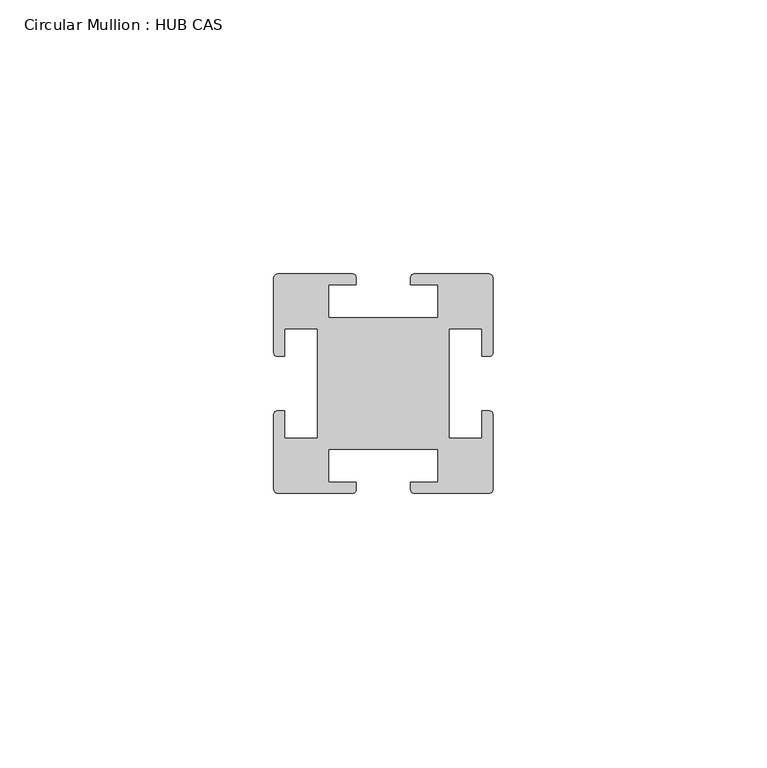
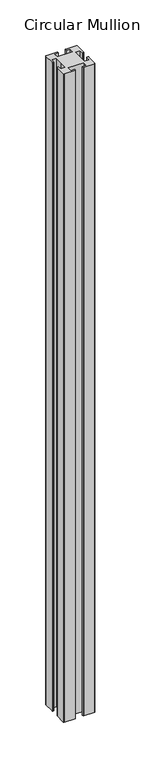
"""IFC4 building model written with IfcOpenShell, lengths in millimetres: member geometry, Circular Mullion : HUB CAS."""

from ifc_helpers import new_model, si_unit, point, frame, frame_2d, origin, place, context, project, spatial, polyline, circle_curve, trimmed, segment, composite_curve, outline, extrude, source, transform, mapped, element, save


def circular_mullion_hub_cas_675684c7(model_context):
    return source(origin(), model_context, "Body", "SweptSolid", [
        extrude(outline(composite_curve([segment(polyline([(5.601076, 2.0892375), (19.298924, 2.0892375)]), True, "CONTINUOUS"), segment(trimmed(circle_curve(frame_2d((19.298924, 1.3892375)), 0.7), [point((19.298924, 2.0892375))], [point((19.998924, 1.3892375))], False, "CARTESIAN"), True, "CONTINUOUS"), segment(polyline([(19.998924, 1.3892375), (19.998924, -12.3107625)]), True, "CONTINUOUS"), segment(trimmed(circle_curve(frame_2d((19.398924, -12.3107625)), 0.6), [point((19.998924, -12.3107625))], [point((19.398924, -12.9107625))], False, "CARTESIAN"), True, "CONTINUOUS"), segment(polyline([(19.398924, -12.9107625), (17.998924, -12.9107625), (17.998924, -7.9107625), (11.998924, -7.9107625), (11.998924, -17.9107625), (11.998924, -27.9107625), (17.998924, -27.9107625), (17.998924, -22.9107625), (19.398924, -22.9107625)]), True, "CONTINUOUS"), segment(trimmed(circle_curve(frame_2d((19.398924, -23.5107625)), 0.6), [point((19.398924, -22.9107625))], [point((19.998924, -23.5107625))], False, "CARTESIAN"), True, "CONTINUOUS"), segment(polyline([(19.998924, -23.5107625), (19.998924, -37.2107625)]), True, "CONTINUOUS"), segment(trimmed(circle_curve(frame_2d((19.298924, -37.2107625)), 0.7), [point((19.998924, -37.2107625))], [point((19.298924, -37.9107625))], False, "CARTESIAN"), True, "CONTINUOUS"), segment(polyline([(19.298924, -37.9107625), (5.601076, -37.9107625)]), True, "CONTINUOUS"), segment(trimmed(circle_curve(frame_2d((5.601076, -37.3107625)), 0.6), [point((5.601076, -37.9107625))], [point((5.001076, -37.3107625))], False, "CARTESIAN"), True, "CONTINUOUS"), segment(polyline([(5.001076, -37.3107625), (5.001076, -35.910257), (9.998924, -35.910257), (9.998924, -29.9107625), (-9.998924, -29.9107625), (-9.998924, -35.910257), (-5.001076, -35.910257), (-5.001076, -37.3107625)]), True, "CONTINUOUS"), segment(trimmed(circle_curve(frame_2d((-5.601076, -37.3107625)), 0.6), [point((-5.001076, -37.3107625))], [point((-5.601076, -37.9107625))], False, "CARTESIAN"), True, "CONTINUOUS"), segment(polyline([(-5.601076, -37.9107625), (-19.298924, -37.9107625)]), True, "CONTINUOUS"), segment(trimmed(circle_curve(frame_2d((-19.298924, -37.2107625)), 0.7), [point((-19.298924, -37.9107625))], [point((-19.998924, -37.2107625))], False, "CARTESIAN"), True, "CONTINUOUS"), segment(polyline([(-19.998924, -37.2107625), (-19.998924, -23.5107625)]), True, "CONTINUOUS"), segment(trimmed(circle_curve(frame_2d((-19.398924, -23.5107625)), 0.6), [point((-19.998924, -23.5107625))], [point((-19.398924, -22.9107625))], False, "CARTESIAN"), True, "CONTINUOUS"), segment(polyline([(-19.398924, -22.9107625), (-17.998924, -22.9107625), (-17.998924, -27.9107625), (-11.998924, -27.9107625), (-11.998924, -17.9107625), (-11.998924, -7.9107625), (-17.998924, -7.9107625), (-17.998924, -12.9107625), (-19.398924, -12.9107625)]), True, "CONTINUOUS"), segment(trimmed(circle_curve(frame_2d((-19.398924, -12.3107625)), 0.6), [point((-19.398924, -12.9107625))], [point((-19.998924, -12.3107625))], False, "CARTESIAN"), True, "CONTINUOUS"), segment(polyline([(-19.998924, -12.3107625), (-19.998924, 1.3892375)]), True, "CONTINUOUS"), segment(trimmed(circle_curve(frame_2d((-19.298924, 1.3892375)), 0.7), [point((-19.998924, 1.3892375))], [point((-19.298924, 2.0892375))], False, "CARTESIAN"), True, "CONTINUOUS"), segment(polyline([(-19.298924, 2.0892375), (-5.601076, 2.0892375)]), True, "CONTINUOUS"), segment(trimmed(circle_curve(frame_2d((-5.601076, 1.4892375)), 0.6), [point((-5.601076, 2.0892375))], [point((-5.001076, 1.4892375))], False, "CARTESIAN"), True, "CONTINUOUS"), segment(polyline([(-5.001076, 1.4892375), (-5.001076, 0.0887321), (-9.998924, 0.0887321), (-9.998924, -5.9107625), (9.998924, -5.9107625), (9.998924, 0.0887321), (5.001076, 0.0887321), (5.001076, 1.4892375)]), True, "CONTINUOUS"), segment(trimmed(circle_curve(frame_2d((5.601076, 1.4892375)), 0.6), [point((5.001076, 1.4892375))], [point((5.601076, 2.0892375))], False, "CARTESIAN"), True, "CONTINUOUS")], self_intersect=False)), frame((0.0, 0.0, -870.0010757), z_axis=(0.0, 0.0, 1.0), x_axis=(1.0, 0.0, 0.0)), (0.0, 0.0, 1.0), 870.0010757),
    ])


if __name__ == "__main__":
    model = new_model("IFC4")
    model_context = context("Model", 3, world=origin())
    ifc_project = project(units=[si_unit("LENGTHUNIT", "METRE", prefix="MILLI")], contexts=[model_context])
    site = spatial("IfcSite", under=ifc_project)
    building = spatial("IfcBuilding", under=site)
    placement = place(None, origin())
    circular_mullion_hub_cas_shape = circular_mullion_hub_cas_675684c7(model_context)
    element("IfcMember", 1, ObjectType="Circular Mullion : HUB CAS", at=placement, inside=building, context=model_context, shape_type="MappedRepresentation", body=[
        mapped(circular_mullion_hub_cas_shape, transform((0.0, 0.0, 0.0), x_axis=(1.0, 0.0, 0.0), y_axis=(0.0, 1.0, 0.0), z_axis=(0.0, 0.0, 1.0))),
    ])
    save(model, "model.ifc")
